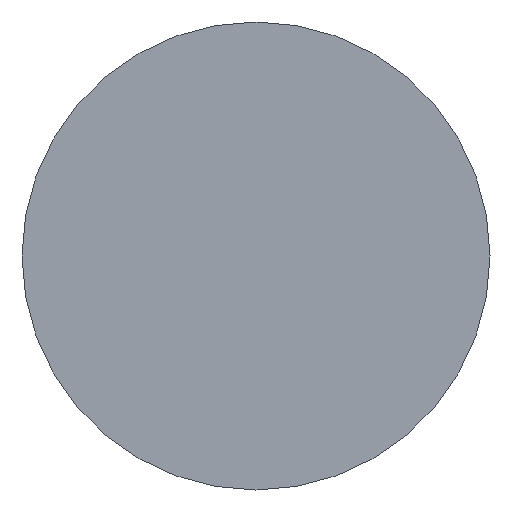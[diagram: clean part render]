
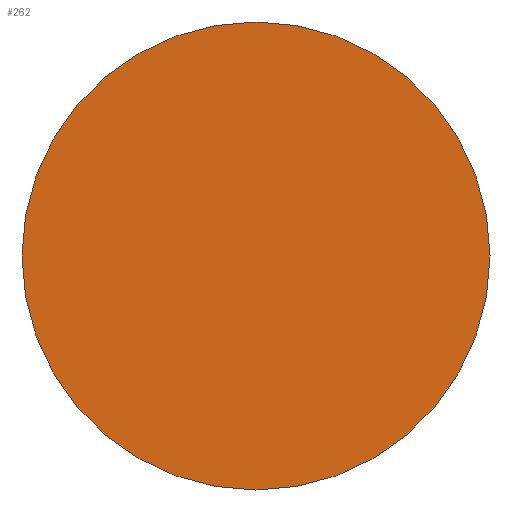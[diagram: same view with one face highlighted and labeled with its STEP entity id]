
A CAD part, front view. The second image highlights one B-rep face of the part: STEP entity #262.
In plain terms, the highlighted planar face has unit normal (0, -1, 0).
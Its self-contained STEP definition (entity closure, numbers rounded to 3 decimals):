
#19=PLANE('',#315);
#41=FACE_OUTER_BOUND('',#59,.T.);
#59=EDGE_LOOP('',(#234));
#78=CIRCLE('',#316,41.5);
#129=VERTEX_POINT('',#1297);
#165=EDGE_CURVE('',#129,#129,#78,.T.);
#234=ORIENTED_EDGE('',*,*,#165,.F.);
#262=ADVANCED_FACE('',(#41),#19,.T.);
#315=AXIS2_PLACEMENT_3D('',#1296,#380,#381);
#316=AXIS2_PLACEMENT_3D('',#1298,#382,#383);
#380=DIRECTION('center_axis',(0.,-1.,0.));
#381=DIRECTION('ref_axis',(0.,0.,-1.));
#382=DIRECTION('center_axis',(0.,1.,0.));
#383=DIRECTION('ref_axis',(1.,0.,0.));
#1296=CARTESIAN_POINT('Origin',(0.,0.,41.5));
#1297=CARTESIAN_POINT('',(0.,0.,-41.5));
#1298=CARTESIAN_POINT('Origin',(0.,0.,0.));
